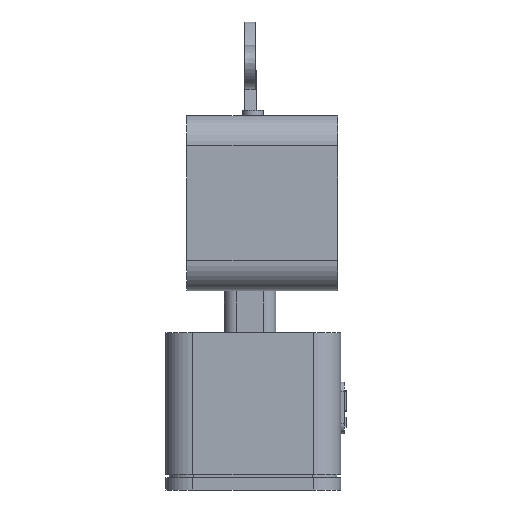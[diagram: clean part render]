
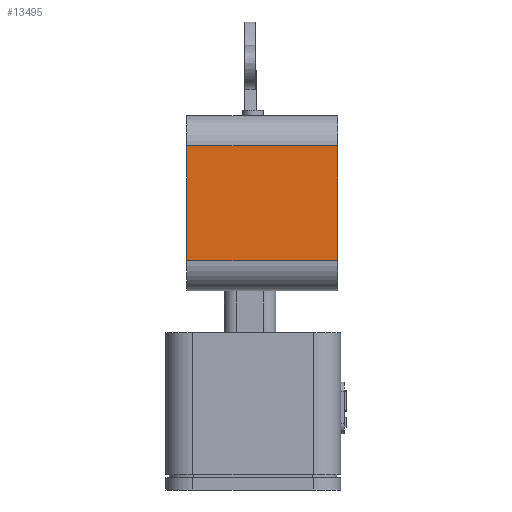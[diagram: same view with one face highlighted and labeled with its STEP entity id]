
A CAD part, left-side view. The second image highlights one B-rep face of the part: STEP entity #13495.
In plain terms, the highlighted planar face has unit normal (-1, 0, 0).
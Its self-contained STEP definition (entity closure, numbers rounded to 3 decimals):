
#2580 = PLANE('',#2581);
#2581 = AXIS2_PLACEMENT_3D('',#2582,#2583,#2584);
#2582 = CARTESIAN_POINT('',(-50.,22.,66.));
#2583 = DIRECTION('',(0.,-1.,0.));
#2584 = DIRECTION('',(1.,0.,0.));
#2608 = CYLINDRICAL_SURFACE('',#2609,10.);
#2609 = AXIS2_PLACEMENT_3D('',#2610,#2611,#2612);
#2610 = CARTESIAN_POINT('',(-40.,22.,76.));
#2611 = DIRECTION('',(0.,-1.,0.));
#2612 = DIRECTION('',(-1.,-0.,0.));
#2636 = PLANE('',#2637);
#2637 = AXIS2_PLACEMENT_3D('',#2638,#2639,#2640);
#2638 = CARTESIAN_POINT('',(-50.,-28.,66.));
#2639 = DIRECTION('',(0.,-1.,0.));
#2640 = DIRECTION('',(1.,0.,0.));
#6891 = EDGE_CURVE('',#6892,#6894,#6896,.T.);
#6892 = VERTEX_POINT('',#6893);
#6893 = CARTESIAN_POINT('',(-50.,22.,76.));
#6894 = VERTEX_POINT('',#6895);
#6895 = CARTESIAN_POINT('',(-50.,22.,114.));
#6896 = SURFACE_CURVE('',#6897,(#6901,#6908),.PCURVE_S1.);
#6897 = LINE('',#6898,#6899);
#6898 = CARTESIAN_POINT('',(-50.,22.,66.));
#6899 = VECTOR('',#6900,1.);
#6900 = DIRECTION('',(0.,0.,1.));
#6901 = PCURVE('',#2580,#6902);
#6902 = DEFINITIONAL_REPRESENTATION('',(#6903),#6907);
#6903 = LINE('',#6904,#6905);
#6904 = CARTESIAN_POINT('',(0.,0.));
#6905 = VECTOR('',#6906,1.);
#6906 = DIRECTION('',(0.,1.));
#6907 = ( GEOMETRIC_REPRESENTATION_CONTEXT(2) 
PARAMETRIC_REPRESENTATION_CONTEXT() REPRESENTATION_CONTEXT('2D SPACE',''
  ) );
#6908 = PCURVE('',#6909,#6914);
#6909 = PLANE('',#6910);
#6910 = AXIS2_PLACEMENT_3D('',#6911,#6912,#6913);
#6911 = CARTESIAN_POINT('',(-50.,22.,66.));
#6912 = DIRECTION('',(1.,0.,0.));
#6913 = DIRECTION('',(0.,-1.,0.));
#6914 = DEFINITIONAL_REPRESENTATION('',(#6915),#6919);
#6915 = LINE('',#6916,#6917);
#6916 = CARTESIAN_POINT('',(0.,0.));
#6917 = VECTOR('',#6918,1.);
#6918 = DIRECTION('',(0.,-1.));
#6919 = ( GEOMETRIC_REPRESENTATION_CONTEXT(2) 
PARAMETRIC_REPRESENTATION_CONTEXT() REPRESENTATION_CONTEXT('2D SPACE',''
  ) );
#7076 = CYLINDRICAL_SURFACE('',#7077,10.);
#7077 = AXIS2_PLACEMENT_3D('',#7078,#7079,#7080);
#7078 = CARTESIAN_POINT('',(-40.,22.,114.));
#7079 = DIRECTION('',(0.,-1.,0.));
#7080 = DIRECTION('',(-1.,-0.,0.));
#7094 = VERTEX_POINT('',#7095);
#7095 = CARTESIAN_POINT('',(-50.,-28.,76.));
#7117 = EDGE_CURVE('',#6892,#7094,#7118,.T.);
#7118 = SURFACE_CURVE('',#7119,(#7123,#7130),.PCURVE_S1.);
#7119 = LINE('',#7120,#7121);
#7120 = CARTESIAN_POINT('',(-50.,22.,76.));
#7121 = VECTOR('',#7122,1.);
#7122 = DIRECTION('',(0.,-1.,0.));
#7123 = PCURVE('',#2608,#7124);
#7124 = DEFINITIONAL_REPRESENTATION('',(#7125),#7129);
#7125 = LINE('',#7126,#7127);
#7126 = CARTESIAN_POINT('',(0.,0.));
#7127 = VECTOR('',#7128,1.);
#7128 = DIRECTION('',(0.,1.));
#7129 = ( GEOMETRIC_REPRESENTATION_CONTEXT(2) 
PARAMETRIC_REPRESENTATION_CONTEXT() REPRESENTATION_CONTEXT('2D SPACE',''
  ) );
#7130 = PCURVE('',#6909,#7131);
#7131 = DEFINITIONAL_REPRESENTATION('',(#7132),#7136);
#7132 = LINE('',#7133,#7134);
#7133 = CARTESIAN_POINT('',(0.,-10.));
#7134 = VECTOR('',#7135,1.);
#7135 = DIRECTION('',(1.,0.));
#7136 = ( GEOMETRIC_REPRESENTATION_CONTEXT(2) 
PARAMETRIC_REPRESENTATION_CONTEXT() REPRESENTATION_CONTEXT('2D SPACE',''
  ) );
#7195 = EDGE_CURVE('',#7094,#7196,#7198,.T.);
#7196 = VERTEX_POINT('',#7197);
#7197 = CARTESIAN_POINT('',(-50.,-28.,114.));
#7198 = SURFACE_CURVE('',#7199,(#7203,#7210),.PCURVE_S1.);
#7199 = LINE('',#7200,#7201);
#7200 = CARTESIAN_POINT('',(-50.,-28.,66.));
#7201 = VECTOR('',#7202,1.);
#7202 = DIRECTION('',(0.,0.,1.));
#7203 = PCURVE('',#2636,#7204);
#7204 = DEFINITIONAL_REPRESENTATION('',(#7205),#7209);
#7205 = LINE('',#7206,#7207);
#7206 = CARTESIAN_POINT('',(0.,0.));
#7207 = VECTOR('',#7208,1.);
#7208 = DIRECTION('',(0.,1.));
#7209 = ( GEOMETRIC_REPRESENTATION_CONTEXT(2) 
PARAMETRIC_REPRESENTATION_CONTEXT() REPRESENTATION_CONTEXT('2D SPACE',''
  ) );
#7210 = PCURVE('',#6909,#7211);
#7211 = DEFINITIONAL_REPRESENTATION('',(#7212),#7216);
#7212 = LINE('',#7213,#7214);
#7213 = CARTESIAN_POINT('',(50.,0.));
#7214 = VECTOR('',#7215,1.);
#7215 = DIRECTION('',(0.,-1.));
#7216 = ( GEOMETRIC_REPRESENTATION_CONTEXT(2) 
PARAMETRIC_REPRESENTATION_CONTEXT() REPRESENTATION_CONTEXT('2D SPACE',''
  ) );
#13495 = ADVANCED_FACE('',(#13496),#6909,.F.);
#13496 = FACE_BOUND('',#13497,.F.);
#13497 = EDGE_LOOP('',(#13498,#13499,#13500,#13501));
#13498 = ORIENTED_EDGE('',*,*,#7195,.F.);
#13499 = ORIENTED_EDGE('',*,*,#7117,.F.);
#13500 = ORIENTED_EDGE('',*,*,#6891,.T.);
#13501 = ORIENTED_EDGE('',*,*,#13502,.T.);
#13502 = EDGE_CURVE('',#6894,#7196,#13503,.T.);
#13503 = SURFACE_CURVE('',#13504,(#13508,#13515),.PCURVE_S1.);
#13504 = LINE('',#13505,#13506);
#13505 = CARTESIAN_POINT('',(-50.,22.,114.));
#13506 = VECTOR('',#13507,1.);
#13507 = DIRECTION('',(0.,-1.,0.));
#13508 = PCURVE('',#6909,#13509);
#13509 = DEFINITIONAL_REPRESENTATION('',(#13510),#13514);
#13510 = LINE('',#13511,#13512);
#13511 = CARTESIAN_POINT('',(0.,-48.));
#13512 = VECTOR('',#13513,1.);
#13513 = DIRECTION('',(1.,0.));
#13514 = ( GEOMETRIC_REPRESENTATION_CONTEXT(2) 
PARAMETRIC_REPRESENTATION_CONTEXT() REPRESENTATION_CONTEXT('2D SPACE',''
  ) );
#13515 = PCURVE('',#7076,#13516);
#13516 = DEFINITIONAL_REPRESENTATION('',(#13517),#13521);
#13517 = LINE('',#13518,#13519);
#13518 = CARTESIAN_POINT('',(-0.,0.));
#13519 = VECTOR('',#13520,1.);
#13520 = DIRECTION('',(-0.,1.));
#13521 = ( GEOMETRIC_REPRESENTATION_CONTEXT(2) 
PARAMETRIC_REPRESENTATION_CONTEXT() REPRESENTATION_CONTEXT('2D SPACE',''
  ) );
